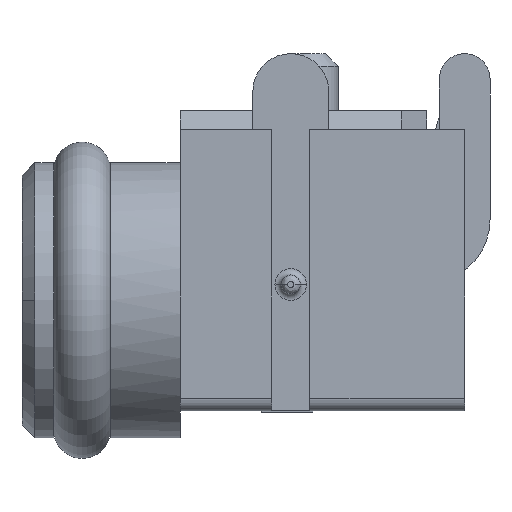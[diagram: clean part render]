
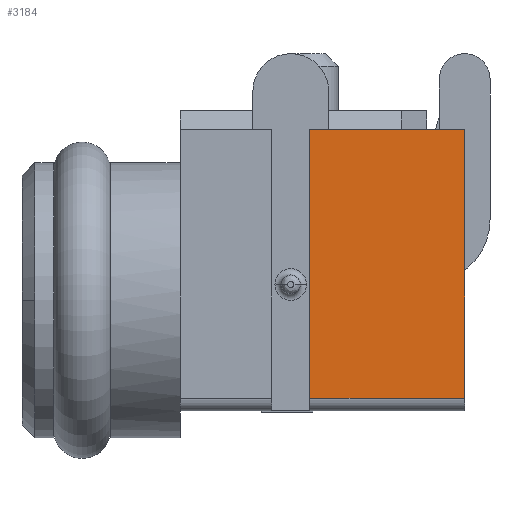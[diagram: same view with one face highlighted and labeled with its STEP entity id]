
A CAD part, left-side view. The second image highlights one B-rep face of the part: STEP entity #3184.
In plain terms, the highlighted planar face has unit normal (-1, 0, 0).
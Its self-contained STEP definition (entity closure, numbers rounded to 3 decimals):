
#940 = DIRECTION ( 'NONE',  ( 0., 1., 0. ) ) ;
#993 = CARTESIAN_POINT ( 'NONE',  ( -5.475, -0.91, 3.045 ) ) ;
#1134 = VECTOR ( 'NONE', #23504, 1000. ) ;
#1388 = CARTESIAN_POINT ( 'NONE',  ( -5.475, -0.91, 3.045 ) ) ;
#1534 = LINE ( 'NONE', #1388, #2542 ) ;
#1723 = CARTESIAN_POINT ( 'NONE',  ( -5.475, 1.54, 3.045 ) ) ;
#2431 = VERTEX_POINT ( 'NONE', #18576 ) ;
#2542 = VECTOR ( 'NONE', #940, 1000. ) ;
#3184 = ADVANCED_FACE ( 'NONE', ( #3797 ), #17121, .F. ) ;
#3401 = EDGE_CURVE ( 'NONE', #8543, #2431, #20511, .T. ) ;
#3484 = DIRECTION ( 'NONE',  ( 0., 0., 1. ) ) ;
#3523 = CARTESIAN_POINT ( 'NONE',  ( -5.475, 1.54, -1.205 ) ) ;
#3797 = FACE_OUTER_BOUND ( 'NONE', #12413, .T. ) ;
#4729 = EDGE_CURVE ( 'NONE', #2431, #28048, #18913, .T. ) ;
#5238 = CARTESIAN_POINT ( 'NONE',  ( -5.475, -0.91, -1.205 ) ) ;
#5631 = CARTESIAN_POINT ( 'NONE',  ( -5.475, -0.91, -1.205 ) ) ;
#5716 = DIRECTION ( 'NONE',  ( 0., 1., 0. ) ) ;
#8543 = VERTEX_POINT ( 'NONE', #5631 ) ;
#9385 = ORIENTED_EDGE ( 'NONE', *, *, #3401, .F. ) ;
#11000 = VECTOR ( 'NONE', #14269, 1000. ) ;
#12133 = VERTEX_POINT ( 'NONE', #993 ) ;
#12413 = EDGE_LOOP ( 'NONE', ( #17217, #18209, #18384, #9385 ) ) ;
#12886 = AXIS2_PLACEMENT_3D ( 'NONE', #16835, #25872, #5716 ) ;
#14269 = DIRECTION ( 'NONE',  ( 0., 1., 0. ) ) ;
#16835 = CARTESIAN_POINT ( 'NONE',  ( -5.475, 0.09, -1.005 ) ) ;
#17121 = PLANE ( 'NONE',  #12886 ) ;
#17217 = ORIENTED_EDGE ( 'NONE', *, *, #17835, .T. ) ;
#17835 = EDGE_CURVE ( 'NONE', #8543, #12133, #28363, .T. ) ;
#18209 = ORIENTED_EDGE ( 'NONE', *, *, #18972, .T. ) ;
#18384 = ORIENTED_EDGE ( 'NONE', *, *, #4729, .F. ) ;
#18576 = CARTESIAN_POINT ( 'NONE',  ( -5.475, 1.54, -1.205 ) ) ;
#18913 = LINE ( 'NONE', #3523, #1134 ) ;
#18972 = EDGE_CURVE ( 'NONE', #12133, #28048, #1534, .T. ) ;
#20511 = LINE ( 'NONE', #5238, #11000 ) ;
#23293 = VECTOR ( 'NONE', #3484, 1000. ) ;
#23504 = DIRECTION ( 'NONE',  ( 0., 0., 1. ) ) ;
#23757 = CARTESIAN_POINT ( 'NONE',  ( -5.475, -0.91, -1.205 ) ) ;
#25872 = DIRECTION ( 'NONE',  ( 1., 0., 0. ) ) ;
#28048 = VERTEX_POINT ( 'NONE', #1723 ) ;
#28363 = LINE ( 'NONE', #23757, #23293 ) ;
